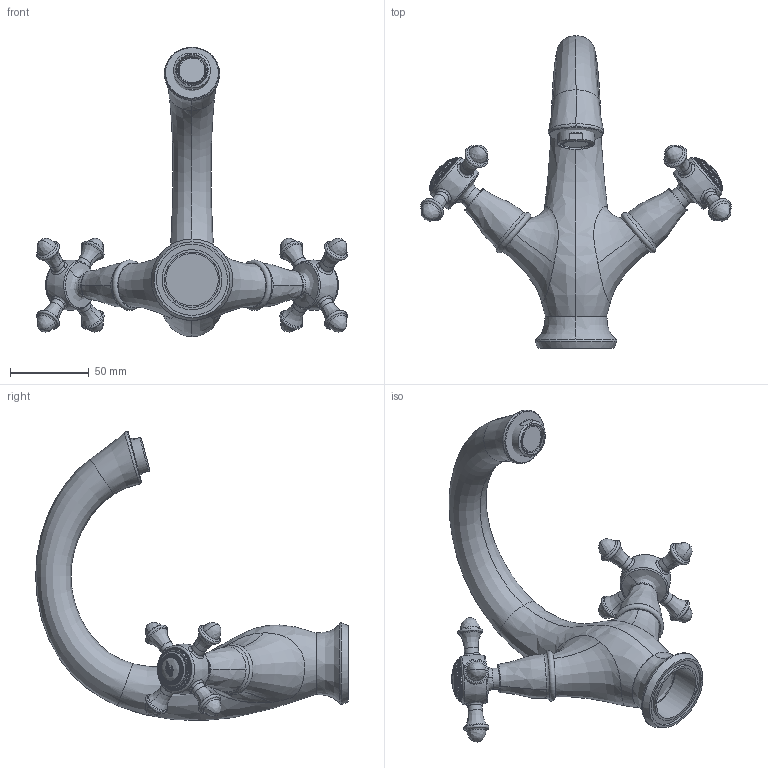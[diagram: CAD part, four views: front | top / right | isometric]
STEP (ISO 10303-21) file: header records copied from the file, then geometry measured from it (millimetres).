
FILE_DESCRIPTION(/* description */ (''),/* implementation_level */ '2;1');
FILE_NAME(/* name */ 'c:\worker\convert-fusion-r09\tmp\job-1\11\output\files\b1d6f341-31cb-437b-8245-45848d4104a5\8ad6f7f0-8908-4189-b2ab-bf0550b366ce.stp',/* time_stamp */ '2019-12-09T17:12:14+00:00',/* author */ (''),/* organization */ (''),/* preprocessor_version */ 'ST-DEVELOPER v18',/* originating_system */ 'Autodesk Translation Framework v8.12.0.6',/* authorisation */ '');
FILE_SCHEMA (('AUTOMOTIVE_DESIGN { 1 0 10303 214 3 1 1 }'));
Products named in the file (1): !RE7210
Bounding box: 196.85 x 198.09 x 183.18 mm (x, y, z)
Volume: 186433.9 mm3; surface area: 117248 mm2
Topology: 12 solids, 18 shells, 1594 faces, 4511 edges, 2957 vertices
Faces by surface type: bspline 647, cylinder 491, plane 193, sphere 135, torus 112, cone 16
Full cylindrical faces by diameter (mm): 4.5 x2, 9 x8, 13.5 x2, 15 x3, 16.2 x1, 16.8 x2, 17.4 x1, 18 x1, 18.9 x1, 19.5 x1, 20 x1, 21 x2, 22.3 x1, 23 x2, 23.5 x2, 33.2 x1, 35 x2, 38 x1, 45 x1
Entity records: 130699 total; most frequent: CARTESIAN_POINT 93147, ORIENTED_EDGE 8791, DIRECTION 6326, EDGE_CURVE 4494, VERTEX_POINT 2959, AXIS2_PLACEMENT_3D 2533, EDGE_LOOP 1831, FACE_OUTER_BOUND 1594
